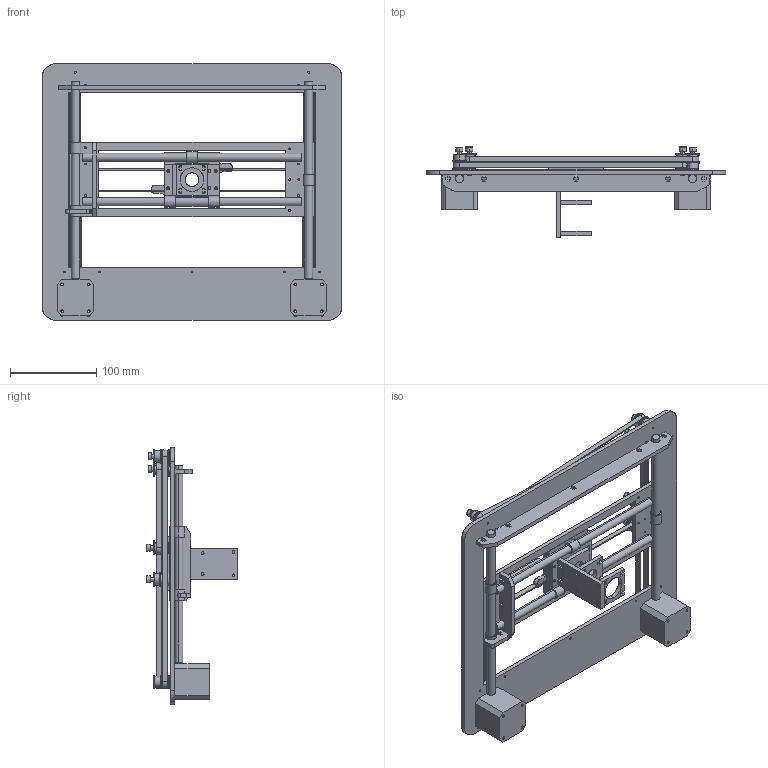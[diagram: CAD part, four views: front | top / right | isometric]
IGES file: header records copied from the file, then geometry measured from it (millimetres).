
Start section: SolidWorks IGES file using analytic representation for surfaces
Global section: file name: C:\Documents and Settings\Administrator\Desktop\coreXY\CoreXY EVT1\20110623\corexy1_master.IGS; native system: SolidWorks 2009; preprocessor: SolidWorks 2009; author: Administrator; date: 120423.190434; units: millimetre
Bounding box: 348 x 105.15 x 297.9 mm (x, y, z)
Surface area: 291554.9 mm2 (no closed solid volume)
Topology: 0 solids, 0 shells, 1036 faces, 14958 edges, 14958 vertices
Faces by surface type: bspline 620, revolution 416
